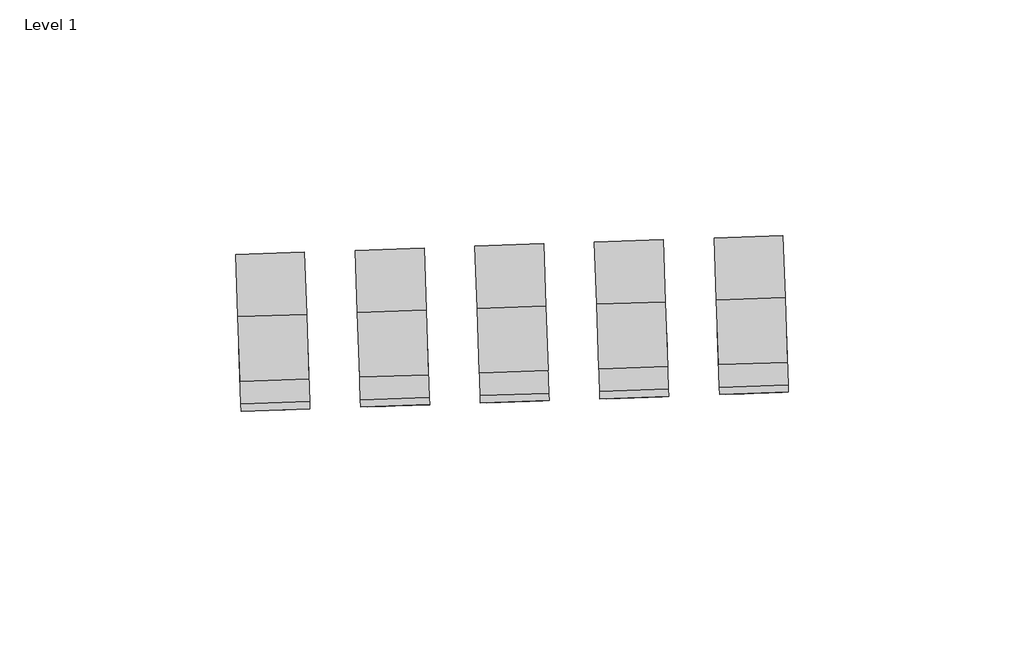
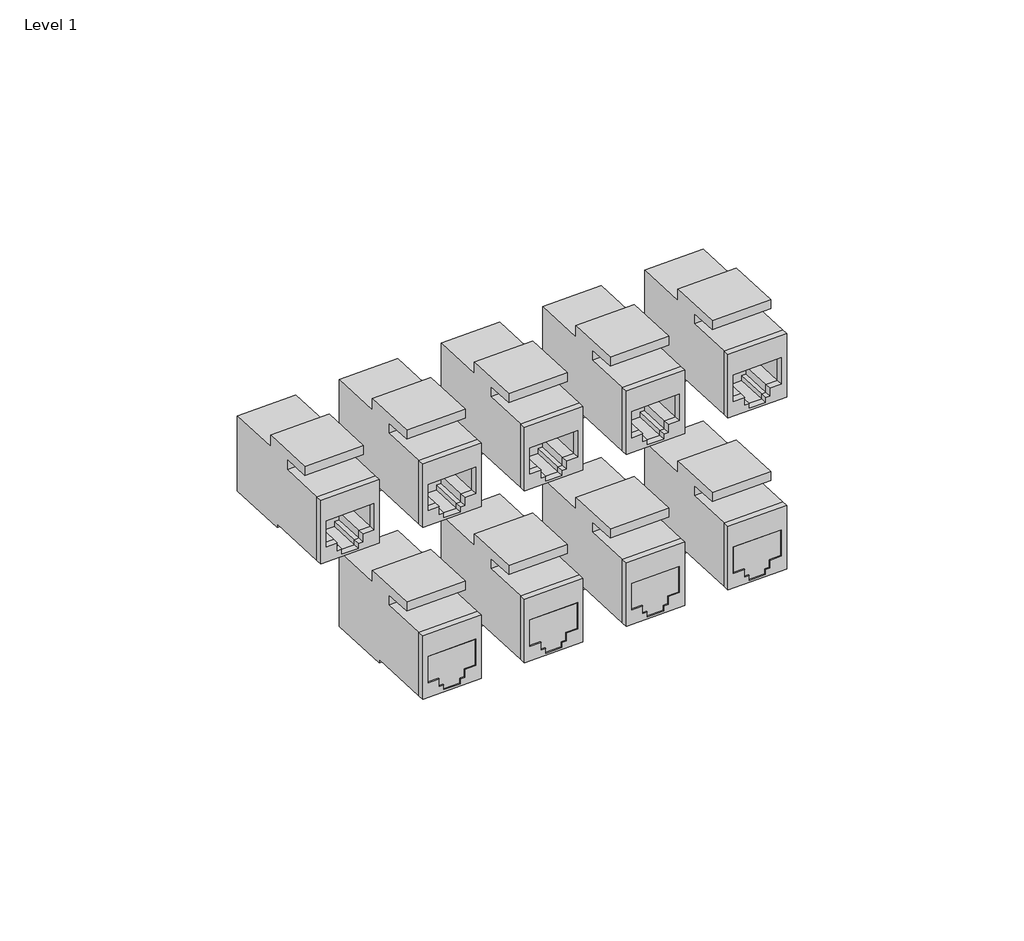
# One storey: 9 electric appliances.
"""IFC4 building model written with IfcOpenShell, lengths in millimetres."""

from ifc_helpers import new_model, si_unit, origin, place, context, project, spatial, transform, mapped, element, save
from components import blank_a4c7bff8, electric_appliance_5a4a56fd

model = new_model("IFC4")

# Units and contexts
model_context = context("Model", 3, world=origin())
ifc_project = project(units=[si_unit("LENGTHUNIT", "METRE", prefix="MILLI")], contexts=[model_context])

# Site, building, storey
site = spatial("IfcSite", under=ifc_project)
building = spatial("IfcBuilding", under=site)
storey = spatial("IfcBuildingStorey", under=building, Name="Level 1", Elevation=0.0)

# Electric appliances
placement = place(None, origin())
blank_shape = blank_a4c7bff8(model_context)
element("IfcElectricAppliance", 1, ObjectType="Data_Device-Network-Leviton-QuickPort-Connector-Copper-Atlas-X1 : CAT 6 Shielded", at=placement, inside=storey, context=model_context, shape_type="MappedRepresentation", body=[
    mapped(blank_shape, transform((-1742.1095552, 2459.4357004, 69.8544285), x_axis=(0.9993908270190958, 0.03489949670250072, 0.0), y_axis=(0.0, 0.0, 1.0), z_axis=(0.03489949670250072, -0.9993908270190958, 0.0))),
])
element("IfcElectricAppliance", 2, ObjectType="Data_Device-Network-Leviton-QuickPort-Connector-Copper-Atlas-X1 : CAT 6A Shielded", at=placement, inside=storey, context=model_context, shape_type="MappedRepresentation", body=[
    mapped(blank_shape, transform((-1691.3405011, 2461.2085948, 69.8544285), x_axis=(0.9993908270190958, 0.03489949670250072, 0.0), y_axis=(0.0, 0.0, 1.0), z_axis=(0.03489949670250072, -0.9993908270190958, 0.0))),
])
element("IfcElectricAppliance", 3, ObjectType="Data_Device-Network-Leviton-QuickPort-Connector-Copper-Atlas-X1 : CAT 6A UTP", at=placement, inside=storey, context=model_context, shape_type="MappedRepresentation", body=[
    mapped(blank_shape, transform((-1665.9559741, 2462.095042, 69.8544285), x_axis=(0.9993908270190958, 0.03489949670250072, 0.0), y_axis=(0.0, 0.0, 1.0), z_axis=(0.03489949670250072, -0.9993908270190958, 0.0))),
])
electric_appliance_shape = electric_appliance_5a4a56fd(model_context)
element("IfcElectricAppliance", 4, ObjectType="Data_Device-Network-Leviton-QuickPort-Connector-Copper-Atlas-X1 : CAT 6 Shielded, with Shutter", at=placement, inside=storey, context=model_context, shape_type="MappedRepresentation", body=[
    mapped(electric_appliance_shape, transform((-1742.1095552, 2459.4357004, 25.4044285), x_axis=(0.9993908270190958, 0.03489949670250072, 0.0), y_axis=(0.0, 0.0, 1.0), z_axis=(0.03489949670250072, -0.9993908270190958, 0.0))),
])
element("IfcElectricAppliance", 5, ObjectType="Data_Device-Network-Leviton-QuickPort-Connector-Copper-Atlas-X1 : CAT 6A Shielded, with Shutter", at=placement, inside=storey, context=model_context, shape_type="MappedRepresentation", body=[
    mapped(electric_appliance_shape, transform((-1691.3405011, 2461.2085948, 25.4044285), x_axis=(0.9993908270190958, 0.03489949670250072, 0.0), y_axis=(0.0, 0.0, 1.0), z_axis=(0.03489949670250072, -0.9993908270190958, 0.0))),
])
element("IfcElectricAppliance", 6, ObjectType="Data_Device-Network-Leviton-QuickPort-Connector-Copper-Atlas-X1 : CAT 6A UTP, with Shutter", at=placement, inside=storey, context=model_context, shape_type="MappedRepresentation", body=[
    mapped(electric_appliance_shape, transform((-1665.9559741, 2462.095042, 25.4044285), x_axis=(0.9993908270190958, 0.03489949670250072, 0.0), y_axis=(0.0, 0.0, 1.0), z_axis=(0.03489949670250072, -0.9993908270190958, 0.0))),
])
element("IfcElectricAppliance", 7, ObjectType="Data_Device-Network-Leviton-QuickPort-Connector-Copper-Atlas-X1 : Blank", at=placement, inside=storey, context=model_context, shape_type="MappedRepresentation", body=[
    mapped(blank_shape, transform((-1767.4940822, 2458.5492532, 69.8544285), x_axis=(0.9993908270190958, 0.03489949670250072, 0.0), y_axis=(0.0, 0.0, 1.0), z_axis=(0.03489949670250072, -0.9993908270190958, 0.0))),
])
element("IfcElectricAppliance", 8, ObjectType="Data_Device-Network-Leviton-QuickPort-Connector-Copper-Atlas-X1 : CAT 6 UTP", at=placement, inside=storey, context=model_context, shape_type="MappedRepresentation", body=[
    mapped(blank_shape, transform((-1716.7250282, 2460.3221476, 69.8544285), x_axis=(0.9993908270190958, 0.03489949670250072, 0.0), y_axis=(0.0, 0.0, 1.0), z_axis=(0.03489949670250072, -0.9993908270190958, 0.0))),
])
element("IfcElectricAppliance", 9, ObjectType="Data_Device-Network-Leviton-QuickPort-Connector-Copper-Atlas-X1 : CAT 6 UTP, with Shutter", at=placement, inside=storey, context=model_context, shape_type="MappedRepresentation", body=[
    mapped(electric_appliance_shape, transform((-1716.7250282, 2460.3221476, 25.4044285), x_axis=(0.9993908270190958, 0.03489949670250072, 0.0), y_axis=(0.0, 0.0, 1.0), z_axis=(0.03489949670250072, -0.9993908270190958, 0.0))),
])

save(model, "model.ifc")
